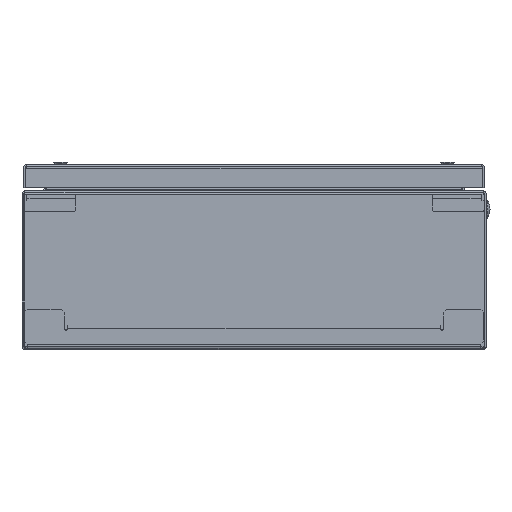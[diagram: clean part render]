
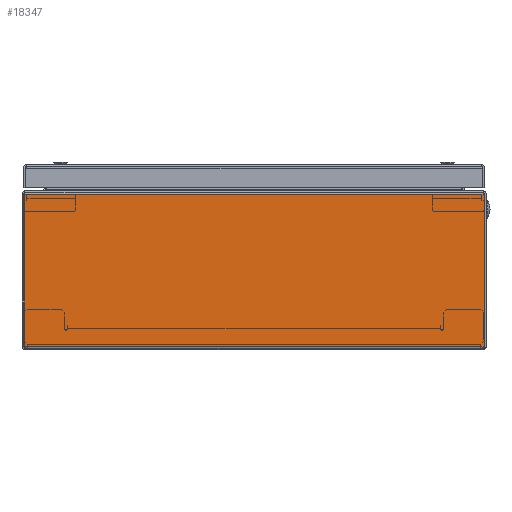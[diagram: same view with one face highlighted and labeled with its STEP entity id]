
A CAD part, left-side view. The second image highlights one B-rep face of the part: STEP entity #18347.
In plain terms, the highlighted planar face has unit normal (-1, 0, 0).
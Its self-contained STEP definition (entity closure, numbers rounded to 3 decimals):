
#620 = VERTEX_POINT ( 'NONE', #2286 ) ;
#842 = ORIENTED_EDGE ( 'NONE', *, *, #11696, .F. ) ;
#1137 = EDGE_CURVE ( 'NONE', #10176, #28835, #24081, .T. ) ;
#2286 = CARTESIAN_POINT ( 'NONE',  ( -300., 148.623, 2.4 ) ) ;
#2381 = DIRECTION ( 'NONE',  ( 0., 0., 1. ) ) ;
#3069 = ORIENTED_EDGE ( 'NONE', *, *, #27348, .F. ) ;
#3791 = PLANE ( 'NONE',  #24241 ) ;
#6788 = CARTESIAN_POINT ( 'NONE',  ( -300., -148.623, 2.4 ) ) ;
#10060 = VERTEX_POINT ( 'NONE', #6788 ) ;
#10176 = VERTEX_POINT ( 'NONE', #33075 ) ;
#10278 = CARTESIAN_POINT ( 'NONE',  ( -300., -3150., 100.6 ) ) ;
#10326 = CARTESIAN_POINT ( 'NONE',  ( -300., 148.623, 100.6 ) ) ;
#10478 = DIRECTION ( 'NONE',  ( 0., 1., 0. ) ) ;
#11696 = EDGE_CURVE ( 'NONE', #10176, #10060, #34205, .T. ) ;
#12302 = DIRECTION ( 'NONE',  ( 0., 0., -1. ) ) ;
#13075 = VECTOR ( 'NONE', #30418, 1000. ) ;
#13507 = LINE ( 'NONE', #24458, #22146 ) ;
#14263 = VECTOR ( 'NONE', #2381, 1000. ) ;
#18347 = ADVANCED_FACE ( 'NONE', ( #35753 ), #3791, .F. ) ;
#19437 = CARTESIAN_POINT ( 'NONE',  ( -300., -148.623, 100.6 ) ) ;
#20093 = ORIENTED_EDGE ( 'NONE', *, *, #34662, .F. ) ;
#20405 = VECTOR ( 'NONE', #27107, 1000. ) ;
#20991 = CARTESIAN_POINT ( 'NONE',  ( -300., -3150., 100.6 ) ) ;
#22146 = VECTOR ( 'NONE', #10478, 1000. ) ;
#22742 = CARTESIAN_POINT ( 'NONE',  ( -300., 148.623, 100.6 ) ) ;
#23463 = DIRECTION ( 'NONE',  ( 1., 0., 0. ) ) ;
#24081 = LINE ( 'NONE', #10278, #20405 ) ;
#24241 = AXIS2_PLACEMENT_3D ( 'NONE', #20991, #23463, #12302 ) ;
#24458 = CARTESIAN_POINT ( 'NONE',  ( -300., -3150., 2.4 ) ) ;
#27107 = DIRECTION ( 'NONE',  ( 0., 1., 0. ) ) ;
#27348 = EDGE_CURVE ( 'NONE', #620, #28835, #30752, .T. ) ;
#28454 = ORIENTED_EDGE ( 'NONE', *, *, #1137, .T. ) ;
#28835 = VERTEX_POINT ( 'NONE', #22742 ) ;
#30418 = DIRECTION ( 'NONE',  ( 0., 0., -1. ) ) ;
#30752 = LINE ( 'NONE', #10326, #14263 ) ;
#32058 = EDGE_LOOP ( 'NONE', ( #3069, #20093, #842, #28454 ) ) ;
#33075 = CARTESIAN_POINT ( 'NONE',  ( -300., -148.623, 100.6 ) ) ;
#34205 = LINE ( 'NONE', #19437, #13075 ) ;
#34662 = EDGE_CURVE ( 'NONE', #10060, #620, #13507, .T. ) ;
#35753 = FACE_OUTER_BOUND ( 'NONE', #32058, .T. ) ;
